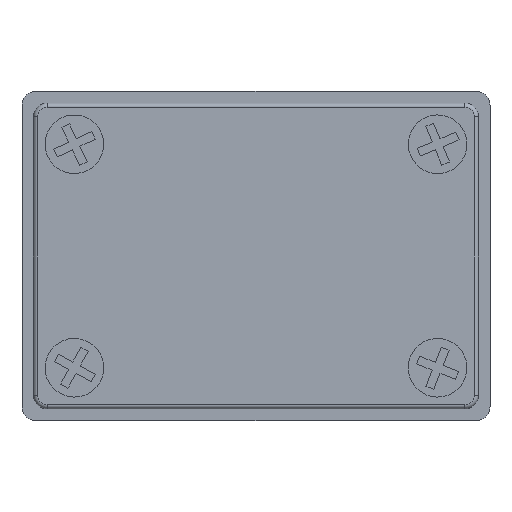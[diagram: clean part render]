
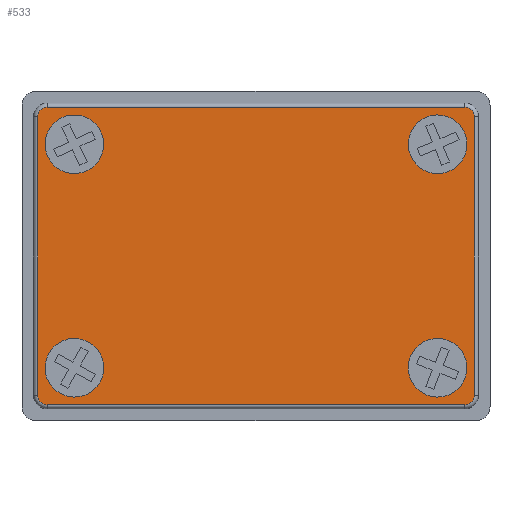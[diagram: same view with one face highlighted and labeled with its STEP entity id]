
A CAD part, front view. The second image highlights one B-rep face of the part: STEP entity #533.
In plain terms, the highlighted planar face has unit normal (0, -1, 0).
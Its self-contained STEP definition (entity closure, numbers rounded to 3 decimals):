
#21 = CARTESIAN_POINT ( 'NONE',  ( 0., 0., 0. ) ) ;
#28 = ORIENTED_EDGE ( 'NONE', *, *, #4958, .F. ) ;
#42 = DIRECTION ( 'NONE',  ( 0., 0., 1. ) ) ;
#68 = LINE ( 'NONE', #2033, #3498 ) ;
#84 = DIRECTION ( 'NONE',  ( -1., 0., 0. ) ) ;
#100 = VERTEX_POINT ( 'NONE', #2950 ) ;
#112 = AXIS2_PLACEMENT_3D ( 'NONE', #2054, #5155, #2493 ) ;
#160 = ORIENTED_EDGE ( 'NONE', *, *, #2895, .F. ) ;
#231 = VERTEX_POINT ( 'NONE', #4442 ) ;
#322 = CIRCLE ( 'NONE', #3314, 0.7 ) ;
#340 = CARTESIAN_POINT ( 'NONE',  ( -13., 0., 8. ) ) ;
#376 = CARTESIAN_POINT ( 'NONE',  ( 13., 0., 8. ) ) ;
#384 = ORIENTED_EDGE ( 'NONE', *, *, #4388, .F. ) ;
#401 = CARTESIAN_POINT ( 'NONE',  ( -13., 0., 9.9 ) ) ;
#406 = EDGE_CURVE ( 'NONE', #603, #100, #5256, .T. ) ;
#424 = VERTEX_POINT ( 'NONE', #2731 ) ;
#450 = VECTOR ( 'NONE', #84, 1000. ) ;
#460 = EDGE_CURVE ( 'NONE', #2823, #603, #2613, .T. ) ;
#533 = ADVANCED_FACE ( 'NONE', ( #2478, #4575, #2201, #1023, #3399 ), #912, .F. ) ;
#563 = ORIENTED_EDGE ( 'NONE', *, *, #5744, .T. ) ;
#593 = ORIENTED_EDGE ( 'NONE', *, *, #2812, .F. ) ;
#597 = LINE ( 'NONE', #632, #450 ) ;
#603 = VERTEX_POINT ( 'NONE', #1026 ) ;
#613 = DIRECTION ( 'NONE',  ( 0., -1., 0. ) ) ;
#632 = CARTESIAN_POINT ( 'NONE',  ( 0., 0., 10.65 ) ) ;
#637 = DIRECTION ( 'NONE',  ( 0., -1., 0. ) ) ;
#675 = EDGE_CURVE ( 'NONE', #231, #2966, #322, .T. ) ;
#687 = DIRECTION ( 'NONE',  ( 0., 0., -1. ) ) ;
#805 = VERTEX_POINT ( 'NONE', #4587 ) ;
#810 = DIRECTION ( 'NONE',  ( 0., 0., -1. ) ) ;
#827 = AXIS2_PLACEMENT_3D ( 'NONE', #5317, #4008, #42 ) ;
#847 = EDGE_CURVE ( 'NONE', #100, #4884, #2264, .T. ) ;
#848 = DIRECTION ( 'NONE',  ( 0., 0., -1. ) ) ;
#912 = PLANE ( 'NONE',  #4893 ) ;
#1003 = VERTEX_POINT ( 'NONE', #401 ) ;
#1005 = CARTESIAN_POINT ( 'NONE',  ( -14.93, 0., -10.65 ) ) ;
#1023 = FACE_BOUND ( 'NONE', #3309, .T. ) ;
#1026 = CARTESIAN_POINT ( 'NONE',  ( -15.63, 0., 9.95 ) ) ;
#1032 = AXIS2_PLACEMENT_3D ( 'NONE', #5336, #4878, #2241 ) ;
#1116 = EDGE_CURVE ( 'NONE', #805, #2823, #597, .T. ) ;
#1150 = VERTEX_POINT ( 'NONE', #2357 ) ;
#1324 = EDGE_CURVE ( 'NONE', #1003, #5425, #5276, .T. ) ;
#1336 = EDGE_LOOP ( 'NONE', ( #160, #384 ) ) ;
#1401 = AXIS2_PLACEMENT_3D ( 'NONE', #3278, #613, #3726 ) ;
#1503 = DIRECTION ( 'NONE',  ( 0., -1., 0. ) ) ;
#1527 = AXIS2_PLACEMENT_3D ( 'NONE', #3301, #637, #3746 ) ;
#1533 = CIRCLE ( 'NONE', #1805, 1.9 ) ;
#1743 = DIRECTION ( 'NONE',  ( 0., 0., 1. ) ) ;
#1805 = AXIS2_PLACEMENT_3D ( 'NONE', #340, #3469, #810 ) ;
#1836 = VECTOR ( 'NONE', #3753, 1000. ) ;
#1916 = EDGE_LOOP ( 'NONE', ( #2133, #593 ) ) ;
#1950 = DIRECTION ( 'NONE',  ( 0., 0., 1. ) ) ;
#2002 = DIRECTION ( 'NONE',  ( 0., -1., 0. ) ) ;
#2023 = EDGE_LOOP ( 'NONE', ( #2982, #3688, #2545, #3853, #563, #3773, #2227, #3958 ) ) ;
#2033 = CARTESIAN_POINT ( 'NONE',  ( 15.63, 0., 0. ) ) ;
#2054 = CARTESIAN_POINT ( 'NONE',  ( 13., 0., 8. ) ) ;
#2124 = VERTEX_POINT ( 'NONE', #2587 ) ;
#2125 = VECTOR ( 'NONE', #4029, 1000. ) ;
#2133 = ORIENTED_EDGE ( 'NONE', *, *, #3561, .F. ) ;
#2201 = FACE_BOUND ( 'NONE', #5572, .T. ) ;
#2227 = ORIENTED_EDGE ( 'NONE', *, *, #3044, .T. ) ;
#2241 = DIRECTION ( 'NONE',  ( 0., 0., 1. ) ) ;
#2264 = CIRCLE ( 'NONE', #827, 0.7 ) ;
#2323 = CARTESIAN_POINT ( 'NONE',  ( 14.93, 0., 9.95 ) ) ;
#2357 = CARTESIAN_POINT ( 'NONE',  ( 13., 0., 6.1 ) ) ;
#2422 = CARTESIAN_POINT ( 'NONE',  ( 13., 0., -8. ) ) ;
#2431 = EDGE_CURVE ( 'NONE', #2562, #424, #4784, .T. ) ;
#2478 = FACE_OUTER_BOUND ( 'NONE', #2023, .T. ) ;
#2493 = DIRECTION ( 'NONE',  ( 0., 0., -1. ) ) ;
#2536 = AXIS2_PLACEMENT_3D ( 'NONE', #4167, #1503, #4632 ) ;
#2545 = ORIENTED_EDGE ( 'NONE', *, *, #406, .T. ) ;
#2562 = VERTEX_POINT ( 'NONE', #3626 ) ;
#2587 = CARTESIAN_POINT ( 'NONE',  ( -13., 0., -9.9 ) ) ;
#2613 = CIRCLE ( 'NONE', #1032, 0.7 ) ;
#2691 = CARTESIAN_POINT ( 'NONE',  ( 0., 0., -10.65 ) ) ;
#2720 = VERTEX_POINT ( 'NONE', #4649 ) ;
#2731 = CARTESIAN_POINT ( 'NONE',  ( 13., 0., -6.1 ) ) ;
#2759 = DIRECTION ( 'NONE',  ( 0., 0., 1. ) ) ;
#2812 = EDGE_CURVE ( 'NONE', #5173, #1150, #3842, .T. ) ;
#2823 = VERTEX_POINT ( 'NONE', #4276 ) ;
#2862 = DIRECTION ( 'NONE',  ( 0., 0., -1. ) ) ;
#2885 = DIRECTION ( 'NONE',  ( 0., 0., 1. ) ) ;
#2895 = EDGE_CURVE ( 'NONE', #2124, #2720, #4185, .T. ) ;
#2908 = AXIS2_PLACEMENT_3D ( 'NONE', #2422, #5524, #2862 ) ;
#2915 = CARTESIAN_POINT ( 'NONE',  ( -13., 0., 8. ) ) ;
#2950 = CARTESIAN_POINT ( 'NONE',  ( -15.63, 0., -9.95 ) ) ;
#2960 = CARTESIAN_POINT ( 'NONE',  ( -13., 0., 6.1 ) ) ;
#2966 = VERTEX_POINT ( 'NONE', #4184 ) ;
#2982 = ORIENTED_EDGE ( 'NONE', *, *, #1116, .T. ) ;
#3044 = EDGE_CURVE ( 'NONE', #2966, #3053, #68, .T. ) ;
#3053 = VERTEX_POINT ( 'NONE', #3382 ) ;
#3160 = CIRCLE ( 'NONE', #2908, 1.9 ) ;
#3211 = CARTESIAN_POINT ( 'NONE',  ( 13., 0., 9.9 ) ) ;
#3278 = CARTESIAN_POINT ( 'NONE',  ( -13., 0., -8. ) ) ;
#3301 = CARTESIAN_POINT ( 'NONE',  ( 13., 0., -8. ) ) ;
#3309 = EDGE_LOOP ( 'NONE', ( #5613, #5499 ) ) ;
#3314 = AXIS2_PLACEMENT_3D ( 'NONE', #5101, #5076, #1950 ) ;
#3382 = CARTESIAN_POINT ( 'NONE',  ( 15.63, 0., 9.95 ) ) ;
#3399 = FACE_BOUND ( 'NONE', #1916, .T. ) ;
#3469 = DIRECTION ( 'NONE',  ( 0., -1., 0. ) ) ;
#3498 = VECTOR ( 'NONE', #2885, 1000. ) ;
#3509 = DIRECTION ( 'NONE',  ( 0., -1., 0. ) ) ;
#3561 = EDGE_CURVE ( 'NONE', #1150, #5173, #4882, .T. ) ;
#3567 = CIRCLE ( 'NONE', #2536, 1.9 ) ;
#3626 = CARTESIAN_POINT ( 'NONE',  ( 13., 0., -9.9 ) ) ;
#3688 = ORIENTED_EDGE ( 'NONE', *, *, #460, .T. ) ;
#3726 = DIRECTION ( 'NONE',  ( 0., 0., -1. ) ) ;
#3746 = DIRECTION ( 'NONE',  ( 0., 0., -1. ) ) ;
#3753 = DIRECTION ( 'NONE',  ( 0., 0., -1. ) ) ;
#3773 = ORIENTED_EDGE ( 'NONE', *, *, #675, .T. ) ;
#3842 = CIRCLE ( 'NONE', #112, 1.9 ) ;
#3853 = ORIENTED_EDGE ( 'NONE', *, *, #847, .T. ) ;
#3958 = ORIENTED_EDGE ( 'NONE', *, *, #4811, .T. ) ;
#4008 = DIRECTION ( 'NONE',  ( 0., -1., 0. ) ) ;
#4029 = DIRECTION ( 'NONE',  ( 1., 0., 0. ) ) ;
#4167 = CARTESIAN_POINT ( 'NONE',  ( -13., 0., -8. ) ) ;
#4184 = CARTESIAN_POINT ( 'NONE',  ( 15.63, 0., -9.95 ) ) ;
#4185 = CIRCLE ( 'NONE', #1401, 1.9 ) ;
#4276 = CARTESIAN_POINT ( 'NONE',  ( -14.93, 0., 10.65 ) ) ;
#4388 = EDGE_CURVE ( 'NONE', #2720, #2124, #3567, .T. ) ;
#4434 = DIRECTION ( 'NONE',  ( 0., 1., 0. ) ) ;
#4442 = CARTESIAN_POINT ( 'NONE',  ( 14.93, 0., -10.65 ) ) ;
#4460 = ORIENTED_EDGE ( 'NONE', *, *, #1324, .F. ) ;
#4490 = LINE ( 'NONE', #2691, #2125 ) ;
#4575 = FACE_BOUND ( 'NONE', #1336, .T. ) ;
#4587 = CARTESIAN_POINT ( 'NONE',  ( 14.93, 0., 10.65 ) ) ;
#4632 = DIRECTION ( 'NONE',  ( 0., 0., -1. ) ) ;
#4649 = CARTESIAN_POINT ( 'NONE',  ( -13., 0., -6.1 ) ) ;
#4784 = CIRCLE ( 'NONE', #1527, 1.9 ) ;
#4811 = EDGE_CURVE ( 'NONE', #3053, #805, #5642, .T. ) ;
#4878 = DIRECTION ( 'NONE',  ( 0., -1., 0. ) ) ;
#4882 = CIRCLE ( 'NONE', #5361, 1.9 ) ;
#4884 = VERTEX_POINT ( 'NONE', #1005 ) ;
#4893 = AXIS2_PLACEMENT_3D ( 'NONE', #21, #4434, #1743 ) ;
#4902 = AXIS2_PLACEMENT_3D ( 'NONE', #2323, #5430, #2759 ) ;
#4958 = EDGE_CURVE ( 'NONE', #5425, #1003, #1533, .T. ) ;
#5076 = DIRECTION ( 'NONE',  ( 0., -1., 0. ) ) ;
#5101 = CARTESIAN_POINT ( 'NONE',  ( 14.93, 0., -9.95 ) ) ;
#5155 = DIRECTION ( 'NONE',  ( 0., -1., 0. ) ) ;
#5165 = AXIS2_PLACEMENT_3D ( 'NONE', #2915, #2002, #687 ) ;
#5173 = VERTEX_POINT ( 'NONE', #3211 ) ;
#5256 = LINE ( 'NONE', #5375, #1836 ) ;
#5276 = CIRCLE ( 'NONE', #5165, 1.9 ) ;
#5284 = EDGE_CURVE ( 'NONE', #424, #2562, #3160, .T. ) ;
#5317 = CARTESIAN_POINT ( 'NONE',  ( -14.93, 0., -9.95 ) ) ;
#5336 = CARTESIAN_POINT ( 'NONE',  ( -14.93, 0., 9.95 ) ) ;
#5361 = AXIS2_PLACEMENT_3D ( 'NONE', #376, #3509, #848 ) ;
#5375 = CARTESIAN_POINT ( 'NONE',  ( -15.63, 0., 0. ) ) ;
#5425 = VERTEX_POINT ( 'NONE', #2960 ) ;
#5430 = DIRECTION ( 'NONE',  ( 0., -1., 0. ) ) ;
#5499 = ORIENTED_EDGE ( 'NONE', *, *, #5284, .F. ) ;
#5524 = DIRECTION ( 'NONE',  ( 0., -1., 0. ) ) ;
#5572 = EDGE_LOOP ( 'NONE', ( #28, #4460 ) ) ;
#5613 = ORIENTED_EDGE ( 'NONE', *, *, #2431, .F. ) ;
#5642 = CIRCLE ( 'NONE', #4902, 0.7 ) ;
#5744 = EDGE_CURVE ( 'NONE', #4884, #231, #4490, .T. ) ;
